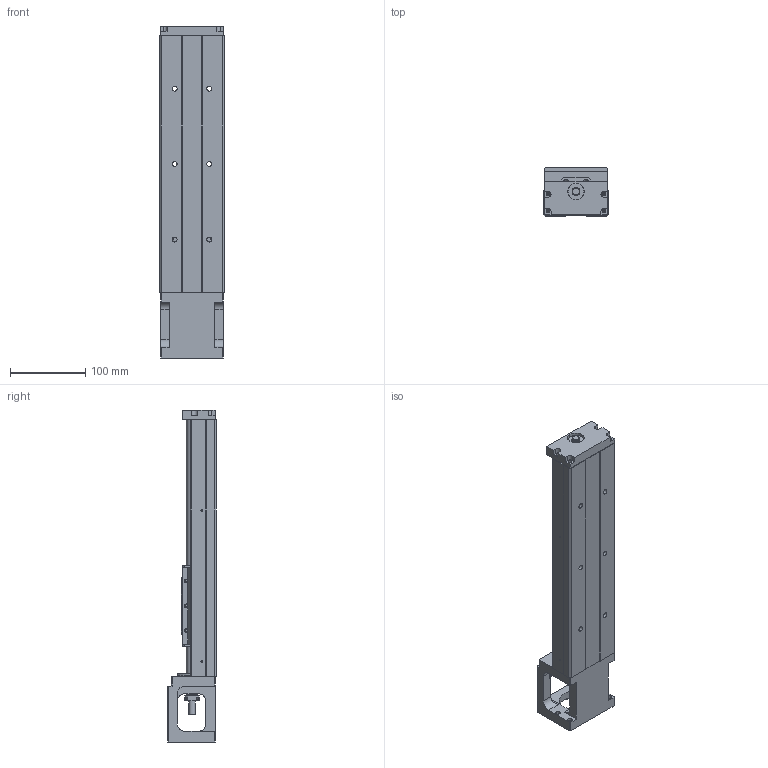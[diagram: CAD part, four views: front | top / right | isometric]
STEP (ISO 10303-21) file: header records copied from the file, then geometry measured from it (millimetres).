
FILE_DESCRIPTION(/* description */ (''),/* implementation_level */ '2;1');
FILE_NAME(/* name */ '46L-340low.stp',/* time_stamp */ '2018-02-12T11:30:55+08:00',/* author */ (''),/* organization */ (''),/* preprocessor_version */ 'ST-DEVELOPER v11',/* originating_system */ 'SIEMENS UGS NX 6.0',/* authorisation */ '');
FILE_SCHEMA (('AUTOMOTIVE_DESIGN { 1 0 10303 214 1 1 1 1 }'));
Length unit declared in the file: millimetre
Products named in the file (1): 3.069
Bounding box: 86 x 64 x 440 mm (x, y, z)
Volume: 1021268.5 mm3; surface area: 210567.6 mm2
Topology: 5 solids, 13 shells, 580 faces, 1533 edges, 1009 vertices
Faces by surface type: plane 277, cylinder 209, cone 51, bspline 35, torus 8
Full cylindrical faces by diameter (mm): 2.11 x4, 2.15 x4, 2.42 x8, 3 x6, 3.2 x4, 3.3 x6, 3.4 x8, 4.2 x4, 4.5 x8, 5 x10, 6 x8, 6.35 x2, 6.6 x6, 8 x1, 9.6 x1, 10 x3, 11 x6, 12 x1, 14.95 x2, 15 x1, 16 x2, 22 x3, 27.5 x1, 44 x1, 50 x1
Entity records: 29502 total; most frequent: CARTESIAN_POINT 12118, ORIENTED_EDGE 2654, DIRECTION 2592, EDGE_CURVE 1327, VERTEX_POINT 949, AXIS2_PLACEMENT_3D 947, EDGE_LOOP 808, LINE 698
